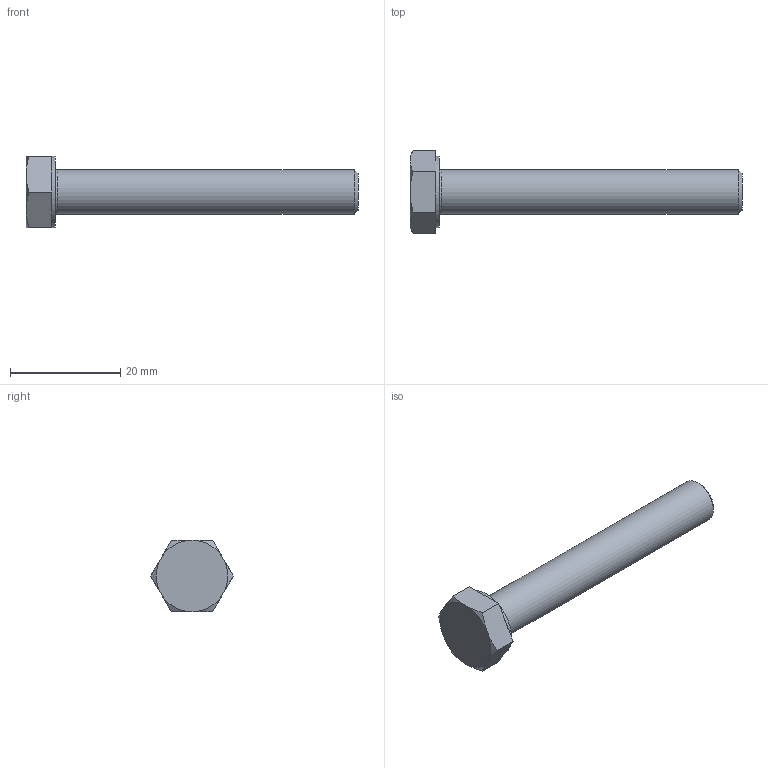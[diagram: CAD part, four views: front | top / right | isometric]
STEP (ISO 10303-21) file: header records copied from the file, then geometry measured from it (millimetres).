
FILE_DESCRIPTION (( 'STEP AP203' ), '1' );
FILE_NAME ('Vis tête hexagonale DIN EN 24014 - M8 x 55.STEP', '2026-06-24T07:29:51', ( '' ), ( '' ), 'SwSTEP 2.0', 'SolidWorks 2024', '' );
FILE_SCHEMA (( 'CONFIG_CONTROL_DESIGN' ));
Length unit declared in the file: millimetre
Products named in the file (1): Vis tête hexagonale DIN EN 24014 - M8 x 55_DIN EN 24014 - M8 x 55 x 22-C
Bounding box: 60.3 x 15.01 x 13 mm (x, y, z)
Volume: 3525 mm3; surface area: 1889.3 mm2
Topology: 1 solids, 1 shells, 25 faces, 52 edges, 30 vertices
Faces by surface type: plane 15, cone 7, cylinder 2, torus 1
Full cylindrical faces by diameter (mm): 8 x1, 13 x1
Entity records: 741 total; most frequent: CARTESIAN_POINT 170, DIRECTION 104, ORIENTED_EDGE 94, EDGE_CURVE 47, AXIS2_PLACEMENT_3D 43, EDGE_LOOP 30, VERTEX_POINT 29, FACE_OUTER_BOUND 28
